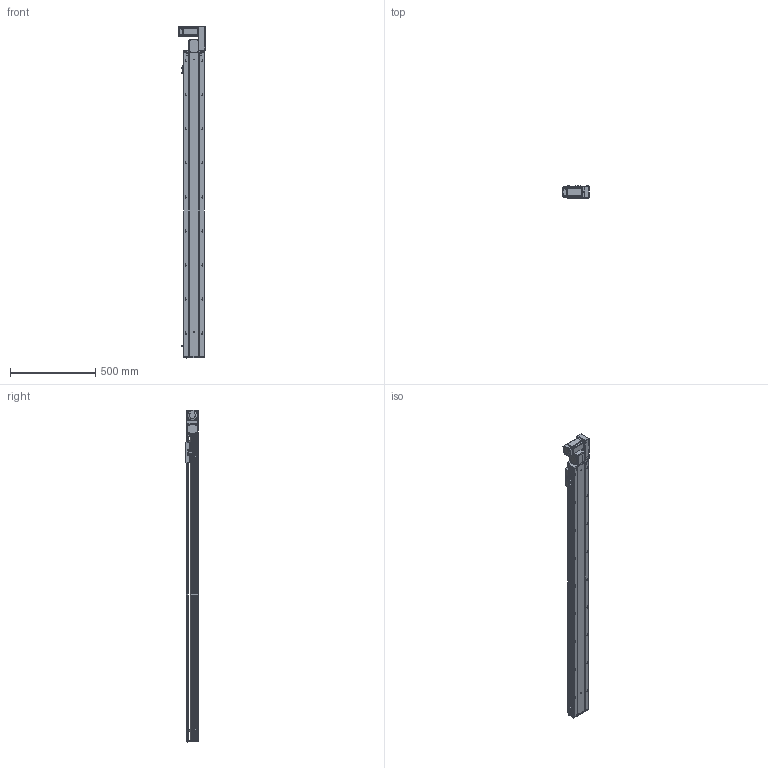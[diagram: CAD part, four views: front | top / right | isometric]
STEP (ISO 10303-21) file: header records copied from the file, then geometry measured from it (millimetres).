
FILE_DESCRIPTION (( 'STEP AP203' ), '1' );
FILE_NAME ('RY120-T-300-RK.SLDASM_1550.step', '2021-03-01T03:54:33', ( '盈信电脑' ), ( '东莞市道滘镇水果街19号' ), 'SwSTEP 2.0', 'SolidWorks 2012', '' );
FILE_SCHEMA (( 'CONFIG_CONTROL_DESIGN' ));
Products named in the file (17): RY120-T蹟翐M4; RY120-T主同步轮轴承压盖; RY120-T-300-RK.SLDASM_1550; RY120-T萇儂欶; RY120-T萇儂假蚾啣; 15; RY120-T翋肮祭謫裔啣; RY120-T翋肮祭盓傅釱; 滅袉蝶18-10; RY120-T肮祭湍揤踡輸1; RY120-T肮祭湍揤踡輸2; RY120外置感应片(140共用）; RY120肮祭湍臏賑輸; RY120-T-300-RK倰第奻裔啣_1550; 覜茼ん672; RY120綴裔啣; RY120-T-300-RK倰第菁釱_1550
Assembly tree (22 placements, depth 2):
  RY120-T-300-RK.SLDASM_1550
    RY120-T-300-RK倰第菁釱_1550
    RY120-T-300-RK倰第奻裔啣_1550
    RY120肮祭湍臏賑輸
    RY120綴裔啣
    覜茼ん672  x3
    RY120外置感应片(140共用）
    RY120-T肮祭湍揤踡輸1
    RY120-T肮祭湍揤踡輸2
    RY120-T翋肮祭盓傅釱
    滅袉蝶18-10  x2
    RY120-T翋肮祭謫裔啣
    15
    RY120-T萇儂假蚾啣
    RY120-T蹟翐M4  x4
    RY120-T萇儂欶
    RY120-T主同步轮轴承压盖
Bounding box: 155.5 x 73 x 1947.5 mm (x, y, z)
Volume: 4821813.3 mm3; surface area: 1827613.1 mm2
Topology: 23 solids, 23 shells, 2972 faces, 8116 edges, 5184 vertices
Faces by surface type: plane 1432, cylinder 1160, cone 291, bspline 89
Entity records: 95033 total; most frequent: CARTESIAN_POINT 24490, ORIENTED_EDGE 14584, DIRECTION 13786, EDGE_CURVE 7292, VERTEX_POINT 4771, AXIS2_PLACEMENT_3D 4655, VECTOR 4476, LINE 4476
